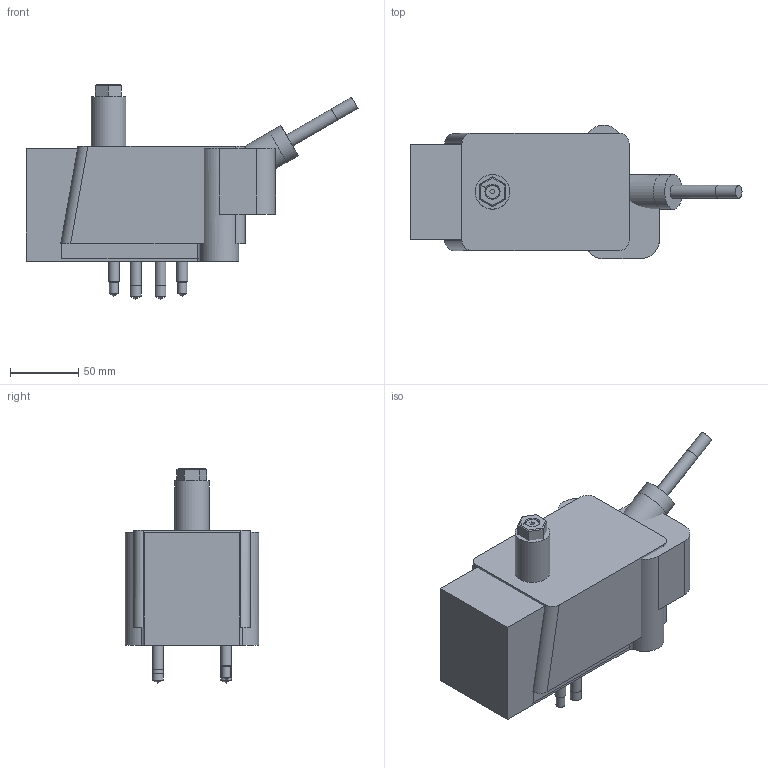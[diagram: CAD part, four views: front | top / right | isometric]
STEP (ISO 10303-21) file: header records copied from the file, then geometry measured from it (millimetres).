
FILE_DESCRIPTION(('STEP AP214'),'1');
FILE_NAME('0011_EZ-30-S-L_201209.stp','2020-12-14T12:28:56',(' '),(' '),'Spatial InterOp 3D',' ',' ');
FILE_SCHEMA(('AUTOMOTIVE_DESIGN { 1 0 10303 214 1 1 1 1 }'));
Length unit declared in the file: metre
Products named in the file (21): 1583159039; 1562100740; 1562099358; 1582908804; 1582908874; 1583513862; 1607693331; 1580688640; 1580688599; 1580688335; 1580700033; 1580691960; 1580702734; 1580702757; 1580689014; 1580689030; 1580689046; 1580689062; 1580689236; 1580689244; 1
Bounding box: 243.09 x 97.75 x 156.95 mm (x, y, z)
Volume: 2557427.6 mm3; surface area: 240074 mm2
Topology: 20 solids, 20 shells, 315 faces, 709 edges, 455 vertices
Faces by surface type: plane 171, cylinder 80, cone 52, torus 5, bspline 4, sphere 3
Full cylindrical faces by diameter (mm): 2.8 x1, 3.175 x1, 3.797 x1, 4.089 x1, 4.8 x1, 4.826 x3, 4.917 x1, 5 x1, 5.159 x1, 6 x1, 6.35 x1, 6.528 x2, 7.938 x11, 8.433 x1, 8.5 x2, 8.731 x1, 9.5 x1, 9.525 x4, 11.906 x2, 12.7 x4, 14.25 x2, 15.875 x1, 25.146 x1, 25.4 x1, 25.527 x1, 26.746 x2, 27 x2, 50.292 x1, 50.8 x1
Entity records: 21801 total; most frequent: CARTESIAN_POINT 12079, DIRECTION 1410, ORIENTED_EDGE 1134, EDGE_CURVE 567, AXIS2_PLACEMENT_3D 555, EDGE_LOOP 455, VERTEX_POINT 418, STYLED_ITEM 395
